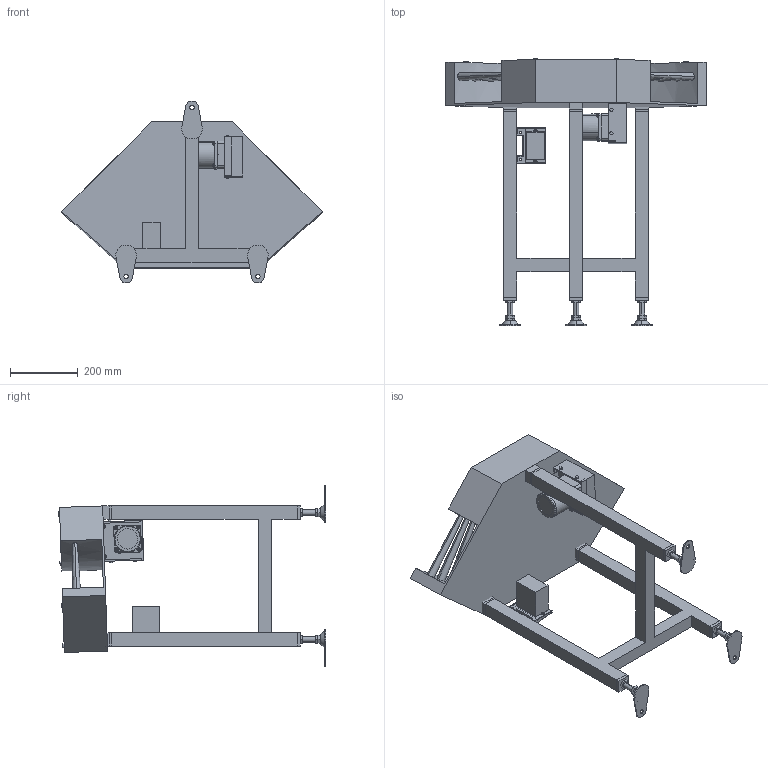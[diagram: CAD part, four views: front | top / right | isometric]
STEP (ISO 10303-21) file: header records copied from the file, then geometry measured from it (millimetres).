
FILE_DESCRIPTION( (''), '2;1');
FILE_NAME ('GT10H-303-200-R-K-75.stp','2025-02-17T15:47:21',(''),(''),'spGate 20.6.2 (****-****-****-****)','','');
FILE_SCHEMA (('AUTOMOTIVE_DESIGN'));
Length unit declared in the file: millimetre
Products named in the file (44): NewModel; TEMP_X_T-prt0; TEMP_X_T-prt1; TEMP_X_T-prt2; TEMP_X_T-prt3; TEMP_X_T-prt4; TEMP_X_T-prt5; TEMP_X_T-prt6; TEMP_X_T-prt7; TEMP_X_T-prt8; TEMP_X_T-prt9; TEMP_X_T-prt10; TEMP_X_T-prt11; TEMP_X_T-prt12; TEMP_X_T-prt13; TEMP_X_T-prt14; TEMP_X_T-prt15; TEMP_X_T-prt16; TEMP_X_T-prt17; TEMP_X_T-prt18; TEMP_X_T-prt19; TEMP_X_T-prt20; TEMP_X_T-prt21; TEMP_X_T-prt22; TEMP_X_T-prt23; TEMP_X_T-prt24; TEMP_X_T-prt25; TEMP_X_T-prt26; TEMP_X_T-prt27; TEMP_X_T-prt28; TEMP_X_T-prt29; TEMP_X_T-prt30; TEMP_X_T-prt31; TEMP_X_T-prt32; TEMP_X_T-prt33; TEMP_X_T-prt34; TEMP_X_T-prt35; TEMP_X_T-prt36; TEMP_X_T-prt37; TEMP_X_T-prt38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
Assembly tree (43 placements, depth 2):
  NewModel
    TEMP_X_T-prt0
    TEMP_X_T-prt1
    TEMP_X_T-prt2
    TEMP_X_T-prt3
    TEMP_X_T-prt4
    TEMP_X_T-prt5
    TEMP_X_T-prt6
    TEMP_X_T-prt7
    TEMP_X_T-prt8
    TEMP_X_T-prt9
    TEMP_X_T-prt10
    TEMP_X_T-prt11
    TEMP_X_T-prt12
    TEMP_X_T-prt13
    TEMP_X_T-prt14
    TEMP_X_T-prt15
    TEMP_X_T-prt16
    TEMP_X_T-prt17
    TEMP_X_T-prt18
    TEMP_X_T-prt19
    TEMP_X_T-prt20
    TEMP_X_T-prt21
    TEMP_X_T-prt22
    TEMP_X_T-prt23
    TEMP_X_T-prt24
    TEMP_X_T-prt25
    TEMP_X_T-prt26
    TEMP_X_T-prt27
    TEMP_X_T-prt28
    TEMP_X_T-prt29
    TEMP_X_T-prt30
    TEMP_X_T-prt31
    TEMP_X_T-prt32
    TEMP_X_T-prt33
    TEMP_X_T-prt34
    TEMP_X_T-prt35
    TEMP_X_T-prt36
    TEMP_X_T-prt37
    TEMP_X_T-prt38
    TEMP_X_T-prt39
    TEMP_X_T-prt40
    TEMP_X_T-prt41
    TEMP_X_T-prt42
Bounding box: 770.75 x 792.11 x 539 mm (x, y, z)
Volume: 20321665.8 mm3; surface area: 1653497.1 mm2
Topology: 43 solids, 43 shells, 1060 faces, 2479 edges, 1558 vertices
Faces by surface type: plane 603, cylinder 252, bspline 205
Entity records: 56130 total; most frequent: CARTESIAN_POINT 11635, ORIENTED_EDGE 4918, DIRECTION 4531, COLOUR_RGB 3562, PRESENTATION_STYLE_ASSIGNMENT 3562, STYLED_ITEM 3562, EDGE_CURVE 2459, DRAUGHTING_PRE_DEFINED_CURVE_FONT 2459
